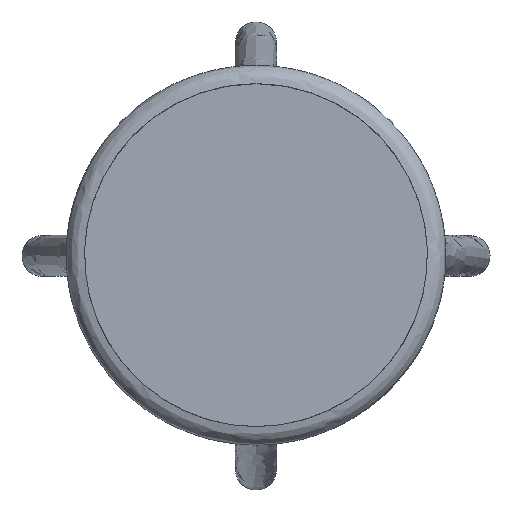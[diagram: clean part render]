
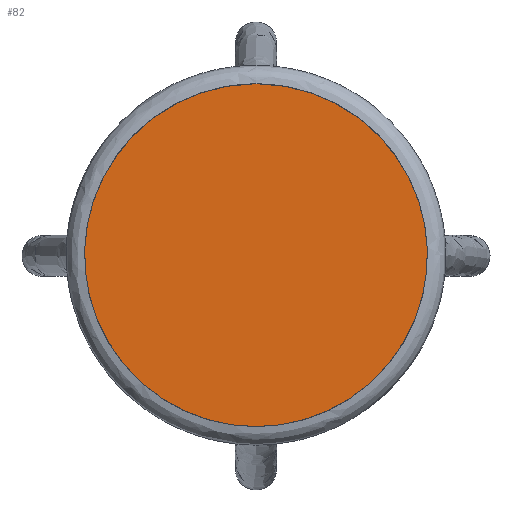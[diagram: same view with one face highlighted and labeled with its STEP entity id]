
A CAD part, top view. The second image highlights one B-rep face of the part: STEP entity #82.
In plain terms, the highlighted free-form (B-spline) face has degree [1, 1] with [2, 2] control points.
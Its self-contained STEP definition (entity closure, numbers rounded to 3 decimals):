
#48=B_SPLINE_SURFACE_WITH_KNOTS('',1,1,((#3680,#3681),(#3682,#3683)),
 .UNSPECIFIED.,.F.,.F.,.F.,(2,2),(2,2),(-3.16,319.16),
(-161.16,161.16),.UNSPECIFIED.);
#82=ADVANCED_FACE('',(#98),#48,.T.);
#98=FACE_OUTER_BOUND('',#114,.T.);
#114=EDGE_LOOP('',(#165));
#165=ORIENTED_EDGE('',*,*,#456,.T.);
#219=PCURVE('',#48,#273);
#273=DEFINITIONAL_REPRESENTATION('',(#469),#3823);
#409=SURFACE_CURVE('',#468,(#219),.PCURVE_S1.);
#456=EDGE_CURVE('',#511,#511,#409,.T.);
#468=(
BOUNDED_CURVE()
B_SPLINE_CURVE(2,(#3685,#3686,#3687,#3688,#3689,#3690,#3691,#3692,#3693),
 .UNSPECIFIED.,.T.,.F.)
B_SPLINE_CURVE_WITH_KNOTS((3,2,2,2,3),(-1099.557,-824.668,
-549.779,-274.889,0.),.UNSPECIFIED.)
CURVE()
GEOMETRIC_REPRESENTATION_ITEM()
RATIONAL_B_SPLINE_CURVE((1.,0.707,1.,0.707,1.,0.707,
1.,0.707,1.))
REPRESENTATION_ITEM('')
);
#469=(
BOUNDED_CURVE()
B_SPLINE_CURVE(2,(#3694,#3695,#3696,#3697,#3698,#3699,#3700,#3701,#3702),
 .UNSPECIFIED.,.T.,.F.)
B_SPLINE_CURVE_WITH_KNOTS((3,2,2,2,3),(-1099.557,-824.668,
-549.779,-274.889,0.),.UNSPECIFIED.)
CURVE()
GEOMETRIC_REPRESENTATION_ITEM()
RATIONAL_B_SPLINE_CURVE((1.,0.707,1.,0.707,1.,0.707,
1.,0.707,1.))
REPRESENTATION_ITEM('')
);
#511=VERTEX_POINT('',#3684);
#3680=CARTESIAN_POINT('',(-161.16,161.16,450.02));
#3681=CARTESIAN_POINT('',(161.16,161.16,450.02));
#3682=CARTESIAN_POINT('',(-161.16,-161.16,450.02));
#3683=CARTESIAN_POINT('',(161.16,-161.16,450.02));
#3684=CARTESIAN_POINT('',(0.,158.,450.02));
#3685=CARTESIAN_POINT('',(0.,158.,450.02));
#3686=CARTESIAN_POINT('',(-158.,158.,450.02));
#3687=CARTESIAN_POINT('',(-158.,0.,450.02));
#3688=CARTESIAN_POINT('',(-158.,-158.,450.02));
#3689=CARTESIAN_POINT('',(0.,-158.,450.02));
#3690=CARTESIAN_POINT('',(158.,-158.,450.02));
#3691=CARTESIAN_POINT('',(158.,0.,450.02));
#3692=CARTESIAN_POINT('',(158.,158.,450.02));
#3693=CARTESIAN_POINT('',(0.,158.,450.02));
#3694=CARTESIAN_POINT('',(0.,0.));
#3695=CARTESIAN_POINT('',(0.,-158.));
#3696=CARTESIAN_POINT('',(158.,-158.));
#3697=CARTESIAN_POINT('',(316.,-158.));
#3698=CARTESIAN_POINT('',(316.,0.));
#3699=CARTESIAN_POINT('',(316.,158.));
#3700=CARTESIAN_POINT('',(158.,158.));
#3701=CARTESIAN_POINT('',(0.,158.));
#3702=CARTESIAN_POINT('',(0.,0.));
#3823=(
GEOMETRIC_REPRESENTATION_CONTEXT(2)
PARAMETRIC_REPRESENTATION_CONTEXT()
REPRESENTATION_CONTEXT('pspace','')
);
